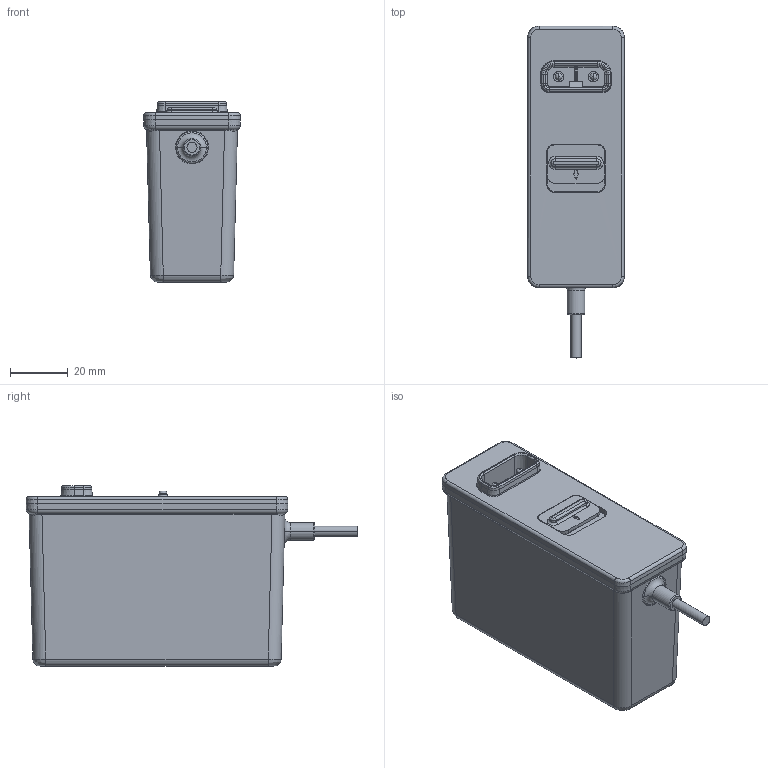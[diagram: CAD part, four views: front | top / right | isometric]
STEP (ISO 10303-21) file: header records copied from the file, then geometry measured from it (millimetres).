
FILE_DESCRIPTION (( 'STEP AP214' ), '1' );
FILE_NAME ('AMF18_AMF24_AMF36-3d.STEP', '2022-05-24T05:19:33', ( '' ), ( '' ), 'SwSTEP 2.0', 'SolidWorks 2020', '' );
FILE_SCHEMA (( 'AUTOMOTIVE_DESIGN' ));
Length unit declared in the file: millimetre
Products named in the file (13): AMF18-2, AMF24-2, AMF36-2^AMF18-1, AMF24-1, AMF36-1_AMF18_AMF24_AMF36-3d; AMF18-10, AMF24-10, AMF36-10^AMF18-1, AMF24-1, AMF36-1_AMF18_AMF24_AMF36-3d; AMF18_AMF24_AMF36-3d; AMF18-8, AMF24-8, AMF36-8^AMF18-1, AMF24-1, AMF36-1_AMF18_AMF24_AMF36-3d; AMF18-13, AMF24-13, AMF36-13^AMF18-1, AMF24-1, AMF36-1_AMF18_AMF24_AMF36-3d; AMF18-4, AMF24-4, AMF36-4^AMF18-1, AMF24-1, AMF36-1_AMF18_AMF24_AMF36-3d; AMF18-12, AMF24-12, AMF36-12^AMF18-1, AMF24-1, AMF36-1_AMF18_AMF24_AMF36-3d; AMF18-11, AMF24-11, AMF36-11^AMF18-1, AMF24-1, AMF36-1_AMF18_AMF24_AMF36-3d; AMF18-6, AMF24-6, AMF36-6^AMF18-1, AMF24-1, AMF36-1_AMF18_AMF24_AMF36-3d; AMF18-1, AMF24-1, AMF36-1^AMF18_AMF24_AMF36-3d; AMF18-5, AMF24-5, AMF36-5^AMF18-1, AMF24-1, AMF36-1_AMF18_AMF24_AMF36-3d; AMF18-7, AMF24-7, AMF36-7^AMF18-1, AMF24-1, AMF36-1_AMF18_AMF24_AMF36-3d; AMF18-9, AMF24-9, AMF36-9^AMF18-1, AMF24-1, AMF36-1_AMF18_AMF24_AMF36-3d
Assembly tree (14 placements, depth 3):
  AMF18_AMF24_AMF36-3d
    AMF18-1, AMF24-1, AMF36-1^AMF18_AMF24_AMF36-3d
      AMF18-2, AMF24-2, AMF36-2^AMF18-1, AMF24-1, AMF36-1_AMF18_AMF24_AMF36-3d
      AMF18-4, AMF24-4, AMF36-4^AMF18-1, AMF24-1, AMF36-1_AMF18_AMF24_AMF36-3d  x2
      AMF18-5, AMF24-5, AMF36-5^AMF18-1, AMF24-1, AMF36-1_AMF18_AMF24_AMF36-3d
      AMF18-6, AMF24-6, AMF36-6^AMF18-1, AMF24-1, AMF36-1_AMF18_AMF24_AMF36-3d
      AMF18-7, AMF24-7, AMF36-7^AMF18-1, AMF24-1, AMF36-1_AMF18_AMF24_AMF36-3d
      AMF18-8, AMF24-8, AMF36-8^AMF18-1, AMF24-1, AMF36-1_AMF18_AMF24_AMF36-3d  x2
      AMF18-9, AMF24-9, AMF36-9^AMF18-1, AMF24-1, AMF36-1_AMF18_AMF24_AMF36-3d
      AMF18-10, AMF24-10, AMF36-10^AMF18-1, AMF24-1, AMF36-1_AMF18_AMF24_AMF36-3d
      AMF18-11, AMF24-11, AMF36-11^AMF18-1, AMF24-1, AMF36-1_AMF18_AMF24_AMF36-3d
      AMF18-12, AMF24-12, AMF36-12^AMF18-1, AMF24-1, AMF36-1_AMF18_AMF24_AMF36-3d
      AMF18-13, AMF24-13, AMF36-13^AMF18-1, AMF24-1, AMF36-1_AMF18_AMF24_AMF36-3d
Bounding box: 33.5 x 114.7 x 62.25 mm (x, y, z)
Volume: 48006.2 mm3; surface area: 56759.3 mm2
Topology: 11 solids, 14 shells, 1469 faces, 3918 edges, 2513 vertices
Faces by surface type: plane 722, cylinder 439, cone 131, bspline 99, torus 78
Full cylindrical faces by diameter (mm): 1.8 x3
Entity records: 57649 total; most frequent: CARTESIAN_POINT 24309, ORIENTED_EDGE 7267, DIRECTION 6220, EDGE_CURVE 3649, VERTEX_POINT 2337, LINE 2102, VECTOR 2102, AXIS2_PLACEMENT_3D 2059
